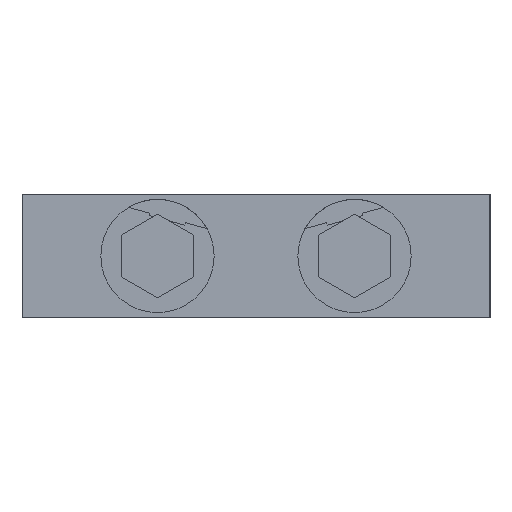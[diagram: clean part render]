
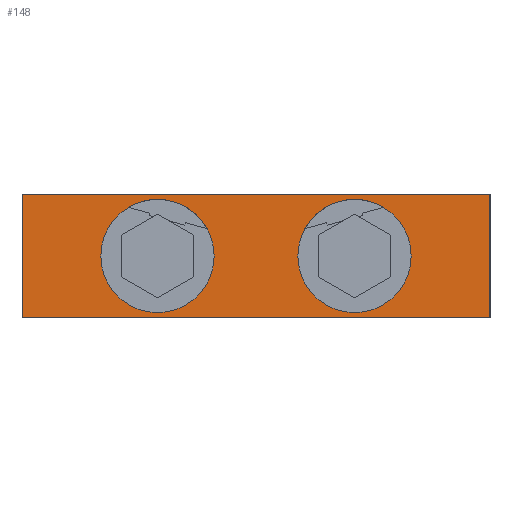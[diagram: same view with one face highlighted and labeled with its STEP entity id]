
A CAD part, left-side view. The second image highlights one B-rep face of the part: STEP entity #148.
In plain terms, the highlighted planar face has unit normal (-1, 0, 0).
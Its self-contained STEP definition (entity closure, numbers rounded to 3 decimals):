
#133 = ORIENTED_EDGE ( 'NONE', *, *, #134, .F. ) ;
#134 = EDGE_CURVE ( 'NONE', #2338, #2357, #985, .T. ) ;
#135 = ORIENTED_EDGE ( 'NONE', *, *, #136, .F. ) ;
#136 = EDGE_CURVE ( 'NONE', #137, #2338, #1046, .T. ) ;
#137 = VERTEX_POINT ( 'NONE', #1042 ) ;
#138 = ORIENTED_EDGE ( 'NONE', *, *, #139, .T. ) ;
#139 = EDGE_CURVE ( 'NONE', #137, #2356, #1041, .T. ) ;
#140 = EDGE_LOOP ( 'NONE', ( #141, #142 ) ) ;
#141 = ORIENTED_EDGE ( 'NONE', *, *, #443, .T. ) ;
#142 = ORIENTED_EDGE ( 'NONE', *, *, #143, .T. ) ;
#143 = EDGE_CURVE ( 'NONE', #435, #2293, #1037, .T. ) ;
#144 = EDGE_LOOP ( 'NONE', ( #145, #146 ) ) ;
#145 = ORIENTED_EDGE ( 'NONE', *, *, #2320, .F. ) ;
#146 = ORIENTED_EDGE ( 'NONE', *, *, #2295, .F. ) ;
#148 = ADVANCED_FACE ( 'NONE', ( #1032, #1031, #1030 ), #1029, .F. ) ;
#149 = ORIENTED_EDGE ( 'NONE', *, *, #150, .T. ) ;
#150 = EDGE_CURVE ( 'NONE', #2356, #2357, #1024, .T. ) ;
#435 = VERTEX_POINT ( 'NONE', #1571 ) ;
#442 = VERTEX_POINT ( 'NONE', #1560 ) ;
#443 = EDGE_CURVE ( 'NONE', #2293, #435, #1559, .T. ) ;
#985 = LINE ( 'NONE', #1049, #1048 ) ;
#1021 = DIRECTION ( 'NONE',  ( 0., 0., 1. ) ) ;
#1022 = VECTOR ( 'NONE', #1021, 1000. ) ;
#1023 = CARTESIAN_POINT ( 'NONE',  ( 0., -2.5, -9.5 ) ) ;
#1024 = LINE ( 'NONE', #1023, #1022 ) ;
#1025 = DIRECTION ( 'NONE',  ( 0., 0., -1. ) ) ;
#1026 = DIRECTION ( 'NONE',  ( 1., 0., 0. ) ) ;
#1027 = CARTESIAN_POINT ( 'NONE',  ( 0., 2.5, -9.5 ) ) ;
#1028 = AXIS2_PLACEMENT_3D ( 'NONE', #1027, #1026, #1025 ) ;
#1029 = PLANE ( 'NONE',  #1028 ) ;
#1030 = FACE_BOUND ( 'NONE', #144, .T. ) ;
#1031 = FACE_BOUND ( 'NONE', #140, .T. ) ;
#1032 = FACE_OUTER_BOUND ( 'NONE', #2346, .T. ) ;
#1033 = DIRECTION ( 'NONE',  ( 0., 0., -1. ) ) ;
#1034 = DIRECTION ( 'NONE',  ( 1., 0., 0. ) ) ;
#1035 = CARTESIAN_POINT ( 'NONE',  ( 0., 0., -4. ) ) ;
#1036 = AXIS2_PLACEMENT_3D ( 'NONE', #1035, #1034, #1033 ) ;
#1037 = CIRCLE ( 'NONE', #1036, 2.3 ) ;
#1038 = DIRECTION ( 'NONE',  ( 0., -1., 0. ) ) ;
#1039 = VECTOR ( 'NONE', #1038, 1000. ) ;
#1040 = CARTESIAN_POINT ( 'NONE',  ( 0., 2.5, -9.5 ) ) ;
#1041 = LINE ( 'NONE', #1040, #1039 ) ;
#1042 = CARTESIAN_POINT ( 'NONE',  ( 0., 2.5, -9.5 ) ) ;
#1043 = DIRECTION ( 'NONE',  ( 0., 0., 1. ) ) ;
#1044 = VECTOR ( 'NONE', #1043, 1000. ) ;
#1045 = CARTESIAN_POINT ( 'NONE',  ( 0., 2.5, -9.5 ) ) ;
#1046 = LINE ( 'NONE', #1045, #1044 ) ;
#1047 = DIRECTION ( 'NONE',  ( 0., -1., 0. ) ) ;
#1048 = VECTOR ( 'NONE', #1047, 1000. ) ;
#1049 = CARTESIAN_POINT ( 'NONE',  ( 0., 2.5, 9.5 ) ) ;
#1555 = DIRECTION ( 'NONE',  ( 0., 0., -1. ) ) ;
#1556 = DIRECTION ( 'NONE',  ( 1., 0., 0. ) ) ;
#1557 = CARTESIAN_POINT ( 'NONE',  ( 0., 0., -4. ) ) ;
#1558 = AXIS2_PLACEMENT_3D ( 'NONE', #1557, #1556, #1555 ) ;
#1559 = CIRCLE ( 'NONE', #1558, 2.3 ) ;
#1560 = CARTESIAN_POINT ( 'NONE',  ( 0., 0., 1.7 ) ) ;
#1571 = CARTESIAN_POINT ( 'NONE',  ( 0., 0., -1.7 ) ) ;
#2086 = CARTESIAN_POINT ( 'NONE',  ( 0., 0., 6.3 ) ) ;
#2087 = DIRECTION ( 'NONE',  ( 0., 0., -1. ) ) ;
#2088 = DIRECTION ( 'NONE',  ( -1., 0., 0. ) ) ;
#2089 = CARTESIAN_POINT ( 'NONE',  ( 0., 0., 4. ) ) ;
#2090 = AXIS2_PLACEMENT_3D ( 'NONE', #2089, #2088, #2087 ) ;
#2091 = CIRCLE ( 'NONE', #2090, 2.3 ) ;
#2093 = CARTESIAN_POINT ( 'NONE',  ( 0., 0., -6.3 ) ) ;
#2106 = CIRCLE ( 'NONE', #2170, 2.3 ) ;
#2139 = CARTESIAN_POINT ( 'NONE',  ( 0., 2.5, 9.5 ) ) ;
#2167 = DIRECTION ( 'NONE',  ( 0., 0., -1. ) ) ;
#2168 = DIRECTION ( 'NONE',  ( -1., 0., 0. ) ) ;
#2169 = CARTESIAN_POINT ( 'NONE',  ( 0., 0., 4. ) ) ;
#2170 = AXIS2_PLACEMENT_3D ( 'NONE', #2169, #2168, #2167 ) ;
#2173 = CARTESIAN_POINT ( 'NONE',  ( 0., -2.5, 9.5 ) ) ;
#2174 = CARTESIAN_POINT ( 'NONE',  ( 0., -2.5, -9.5 ) ) ;
#2293 = VERTEX_POINT ( 'NONE', #2093 ) ;
#2295 = EDGE_CURVE ( 'NONE', #2297, #442, #2091, .T. ) ;
#2297 = VERTEX_POINT ( 'NONE', #2086 ) ;
#2320 = EDGE_CURVE ( 'NONE', #442, #2297, #2106, .T. ) ;
#2338 = VERTEX_POINT ( 'NONE', #2139 ) ;
#2346 = EDGE_LOOP ( 'NONE', ( #149, #133, #135, #138 ) ) ;
#2356 = VERTEX_POINT ( 'NONE', #2174 ) ;
#2357 = VERTEX_POINT ( 'NONE', #2173 ) ;
